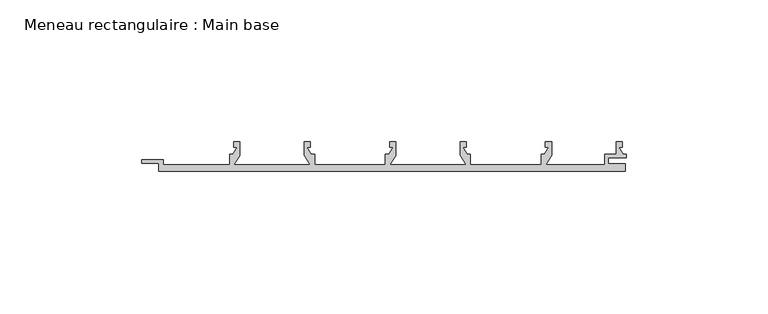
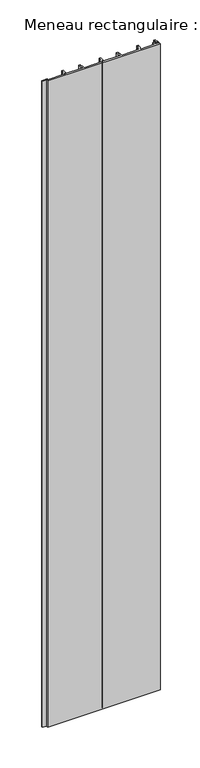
"""IFC4 building model written with IfcOpenShell, lengths in millimetres: member geometry, Meneau rectangulaire : Main base."""

import ifcopenshell
import ifcopenshell.guid

model = None  # the IFC model being written
_history = None  # IfcOwnerHistory: only IFC2X3 demands one
_inside = {}  # id of a spatial element -> (the spatial element, [elements in it])
_under = {}  # id of a project, library or spatial element -> (it, [spatial elements below it])
_declared = {}  # id of a project -> (the project, [libraries it declares])
_typed = {}  # id of a type object -> (the type object, [elements of that type])
_made_of = {}  # id of a material, layer set ... -> (it, [elements and type objects made of it])


def new_model(schema):
    """Start an empty IFC model of exactly this schema.

    Asked for "IFC4X3", IfcOpenShell would pick the latest addendum, in which some entities
    have other attributes; the version numbers below select the first issue.
    IFC2X3 requires an IfcOwnerHistory on every rooted entity: one is made here for all.
    """
    global model, _history
    if schema == "IFC4X3":
        model = ifcopenshell.file(schema_version=(4, 3, 0, 0))
    else:
        model = ifcopenshell.file(schema=schema)
    _inside.clear()
    _under.clear()
    _declared.clear()
    _typed.clear()
    _made_of.clear()
    _history = None
    if model.schema == "IFC2X3":
        org = make("IfcOrganization", Name="unknown")
        user = make(
            "IfcPersonAndOrganization",
            ThePerson=make("IfcPerson", FamilyName="unknown"),
            TheOrganization=org,
        )
        app = make(
            "IfcApplication",
            ApplicationDeveloper=org,
            Version="unknown",
            ApplicationFullName="unknown",
            ApplicationIdentifier="unknown",
        )
        _history = make(
            "IfcOwnerHistory",
            OwningUser=user,
            OwningApplication=app,
            ChangeAction="ADDED",
            CreationDate=0,
        )
    return model


def make(cls, **values):
    """One entity of the class cls with the attributes given. An attribute that is None is left unset."""
    return model.create_entity(
        cls, **{name: value for name, value in values.items() if value is not None}
    )


def rooted(cls, **values):
    """An entity with a GlobalId (a new one), such as an element, a storey or a relation."""
    return make(cls, GlobalId=ifcopenshell.guid.new(), OwnerHistory=_history, **values)


def si_unit(unit_type, name, prefix=None):
    """IfcSIUnit, for example si_unit("LENGTHUNIT", "METRE", prefix="MILLI")."""
    return make("IfcSIUnit", UnitType=unit_type, Prefix=prefix, Name=name)


def assignment(units):
    """IfcUnitAssignment: the units of a project."""
    return None if units is None else make("IfcUnitAssignment", Units=units)


def point(xyz):
    """IfcCartesianPoint."""
    return None if xyz is None else make("IfcCartesianPoint", Coordinates=xyz)


def direction(xyz):
    """IfcDirection."""
    return None if xyz is None else make("IfcDirection", DirectionRatios=xyz)


def frame(location, z_axis=None, x_axis=None):
    """IfcAxis2Placement3D, a coordinate frame: its origin and axes. An axis left out is left unset."""
    return make(
        "IfcAxis2Placement3D",
        Location=point(location),
        Axis=direction(z_axis),
        RefDirection=direction(x_axis),
    )


def origin():
    """The frame at (0, 0, 0) with its axes left unset."""
    return frame((0.0, 0.0, 0.0))


def place(relative_to, where):
    """IfcLocalPlacement: puts the frame where relative to a parent placement (None: the world)."""
    return make(
        "IfcLocalPlacement", PlacementRelTo=relative_to, RelativePlacement=where
    )


def context(
    kind, dimensions, precision=None, world=None, true_north=None, identifier=None
):
    """IfcGeometricRepresentationContext, for example the 3D "Model" context."""
    return make(
        "IfcGeometricRepresentationContext",
        ContextIdentifier=identifier,
        ContextType=kind,
        CoordinateSpaceDimension=dimensions,
        Precision=precision,
        WorldCoordinateSystem=world,
        TrueNorth=true_north,
    )


def project(units=None, contexts=None):
    """IfcProject with its units and contexts."""
    return rooted(
        "IfcProject",
        Name="project",
        RepresentationContexts=contexts,
        UnitsInContext=assignment(units),
    )


def spatial(cls, under=None, at=None, **own):
    """A site, building, storey or space (cls), placed at a placement, below another one or the project."""
    s = rooted(cls, ObjectPlacement=at, **own)
    if under is not None:
        _under.setdefault(under.id(), (under, []))[1].append(s)
    return s


def polyline(points):
    """IfcPolyline through the points."""
    return make("IfcPolyline", Points=[point(p) for p in points])


def outline(outer, holes=None, kind="AREA"):
    """IfcArbitraryClosedProfileDef: a profile drawn as a closed curve; with holes, ...WithVoids."""
    if holes is None:
        return make("IfcArbitraryClosedProfileDef", ProfileType=kind, OuterCurve=outer)
    return make(
        "IfcArbitraryProfileDefWithVoids",
        ProfileType=kind,
        OuterCurve=outer,
        InnerCurves=holes,
    )


def extrude(swept, where, along, depth):
    """IfcExtrudedAreaSolid: the profile swept, set in the frame where, extruded along a direction by depth."""
    return make(
        "IfcExtrudedAreaSolid",
        SweptArea=swept,
        Position=where,
        ExtrudedDirection=direction(along),
        Depth=depth,
    )


def shape(context_of_items, identifier, shape_type, items):
    """IfcShapeRepresentation: the items that make up one representation, for example the "Body"."""
    return make(
        "IfcShapeRepresentation",
        ContextOfItems=context_of_items,
        RepresentationIdentifier=identifier,
        RepresentationType=shape_type,
        Items=items,
    )


def source(mapping_origin, context_of_items, identifier, shape_type, items):
    """IfcRepresentationMap: a shape defined once, which mapped items show again and again."""
    return make(
        "IfcRepresentationMap",
        MappingOrigin=mapping_origin,
        MappedRepresentation=shape(context_of_items, identifier, shape_type, items),
    )


def transform(
    local_origin,
    x_axis=None,
    y_axis=None,
    z_axis=None,
    scale=None,
    scale2=None,
    scale3=None,
    uniform=True,
):
    """IfcCartesianTransformationOperator3D, or its non-uniform kind. x_axis, y_axis, z_axis: its Axis1, 2, 3."""
    if uniform:
        return make(
            "IfcCartesianTransformationOperator3D",
            Axis1=direction(x_axis),
            Axis2=direction(y_axis),
            LocalOrigin=point(local_origin),
            Scale=scale,
            Axis3=direction(z_axis),
        )
    return make(
        "IfcCartesianTransformationOperator3DnonUniform",
        Axis1=direction(x_axis),
        Axis2=direction(y_axis),
        LocalOrigin=point(local_origin),
        Scale=scale,
        Axis3=direction(z_axis),
        Scale2=scale2,
        Scale3=scale3,
    )


def mapped(mapping_source, mapping_target):
    """IfcMappedItem: shows the shape of a source again, moved by a transform."""
    return make(
        "IfcMappedItem", MappingSource=mapping_source, MappingTarget=mapping_target
    )


def made_of(thing, what):
    """Note that an element or type object is made of a material, layer set ...; save() writes the relation."""
    if what is not None:
        _made_of.setdefault(what.id(), (what, []))[1].append(thing)
    return thing


def element(
    cls,
    number,
    at=None,
    inside=None,
    cuts=None,
    type_object=None,
    material=None,
    context=None,
    identifier="Body",
    shape_type=None,
    held_by="IfcProductDefinitionShape",
    body=None,
    shapes=None,
    **own,
):
    """One element of the class cls, such as IfcWall. Its Tag is "e" and its number.

    at: its placement. inside: the storey or other place that contains it. cuts: it is an
    opening in that element (IfcRelVoidsElement). A single representation is given by context,
    identifier, shape_type and body (its items); several are given by shapes. held_by: the class
    of the entity that holds the representations. save() writes the other relations.
    """
    e = rooted(cls, Tag="e%d" % number, ObjectPlacement=at, **own)
    if body is not None:
        shapes = [shape(context, identifier, shape_type, body)]
    if shapes is not None:
        e.Representation = make(held_by, Representations=shapes)
    if inside is not None:
        _inside.setdefault(inside.id(), (inside, []))[1].append(e)
    if cuts is not None:
        rooted(
            "IfcRelVoidsElement", RelatingBuildingElement=cuts, RelatedOpeningElement=e
        )
    if type_object is not None:
        _typed.setdefault(type_object.id(), (type_object, []))[1].append(e)
    return made_of(e, material)


def aggregate(whole, parts):
    """IfcRelAggregates: a whole, such as a stair, and the parts it consists of."""
    return rooted("IfcRelAggregates", RelatingObject=whole, RelatedObjects=parts)


def save(model, path):
    """Write the relations noted so far, then the file.

    IfcRelAggregates (storeys below a building ...), IfcRelContainedInSpatialStructure (elements
    in a storey), IfcRelDefinesByType, IfcRelAssociatesMaterial and IfcRelDeclares: one each for
    every whole, place, type object, material and project.
    """
    for whole, parts in _under.values():
        aggregate(whole, parts)
    for where, things in _inside.values():
        rooted(
            "IfcRelContainedInSpatialStructure",
            RelatedElements=things,
            RelatingStructure=where,
        )
    for kind, things in _typed.values():
        rooted("IfcRelDefinesByType", RelatedObjects=things, RelatingType=kind)
    for what, things in _made_of.values():
        rooted("IfcRelAssociatesMaterial", RelatedObjects=things, RelatingMaterial=what)
    for by, libraries in _declared.values():
        rooted("IfcRelDeclares", RelatingContext=by, RelatedDefinitions=libraries)
    model.write(path)


def meneau_rectangulaire_main_base_713cfc41(model_context):
    return source(origin(), model_context, "Body", "SweptSolid", [
        extrude(outline(polyline([(-0.3862402, 0.0), (-164.962349, 0.0), (-164.962349, 2.85), (-170.962349, 2.85), (-170.962349, 4.2), (-163.4439939, 4.2), (-163.4439939, 2.4), (-139.9744264, 2.4), (-139.9744264, 6.1021884), (-138.859453, 6.1021884), (-137.2708872, 8.4994005), (-138.5328211, 8.4994005), (-138.5328211, 10.4818695), (-136.330295, 10.4818695), (-136.3635783, 5.5238337), (-138.4336561, 2.4), (-111.5172211, 2.4), (-113.6163423, 5.6343123), (-113.6163423, 10.4818695), (-111.4138162, 10.4818695), (-111.4138162, 8.4994005), (-112.6757501, 8.4994005), (-111.0871843, 6.1021884), (-109.9722109, 6.1021884), (-109.9722109, 2.4), (-84.9717115, 2.4), (-84.9717115, 6.1021884), (-83.856738, 6.1021884), (-82.2681722, 8.4994005), (-83.5301061, 8.4994005), (-83.5301061, 10.4818695), (-81.3275801, 10.4818695), (-81.3608633, 5.5238337), (-83.4309411, 2.4), (-56.5167217, 2.4), (-58.6158429, 5.6343123), (-58.6158429, 10.4818695), (-56.4133168, 10.4818695), (-56.4133168, 8.4994005), (-57.6752507, 8.4994005), (-56.0866849, 6.1021884), (-54.9717115, 6.1021884), (-54.9717115, 2.4), (-29.9712121, 2.4), (-29.9712121, 6.1021884), (-28.8562386, 6.1021884), (-27.2676728, 8.4994005), (-28.5296067, 8.4994005), (-28.5296067, 10.4818695), (-26.3270807, 10.4818695), (-26.3270807, 5.6343123), (-28.4262018, 2.4), (-7.6057929, 2.4), (-7.6057929, 6.1), (-3.6153435, 6.1), (-3.6153435, 10.4818695), (-1.4128174, 10.4818695), (-1.4128174, 8.4994005), (-2.6747513, 8.4994005), (-1.0861855, 6.1021884), (0.0, 6.1021884), (0.0, 4.9), (-6.4057929, 4.9), (-6.4057929, 2.7), (-0.3862402, 2.7), (-0.3862402, 0.0)])), frame((0.0, 0.0, -1000.0), z_axis=(0.0, 0.0, 1.0), x_axis=(1.0, 0.0, 0.0)), (0.0, 0.0, 1.0), 1000.0),
    ])


if __name__ == "__main__":
    model = new_model("IFC4")
    model_context = context("Model", 3, world=origin())
    ifc_project = project(units=[si_unit("LENGTHUNIT", "METRE", prefix="MILLI")], contexts=[model_context])
    site = spatial("IfcSite", under=ifc_project)
    building = spatial("IfcBuilding", under=site)
    placement = place(None, origin())
    meneau_rectangulaire_main_base_shape = meneau_rectangulaire_main_base_713cfc41(model_context)
    element("IfcMember", 1, ObjectType="Meneau rectangulaire : Main base", at=placement, inside=building, context=model_context, shape_type="MappedRepresentation", body=[
        mapped(meneau_rectangulaire_main_base_shape, transform((0.0, 0.0, 0.0), x_axis=(1.0, 0.0, 0.0), y_axis=(0.0, 1.0, 0.0), z_axis=(0.0, 0.0, 1.0))),
    ])
    save(model, "model.ifc")
